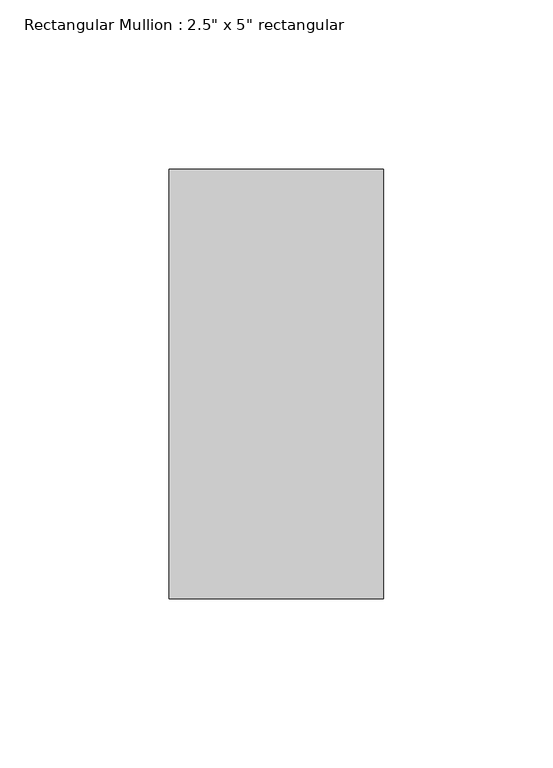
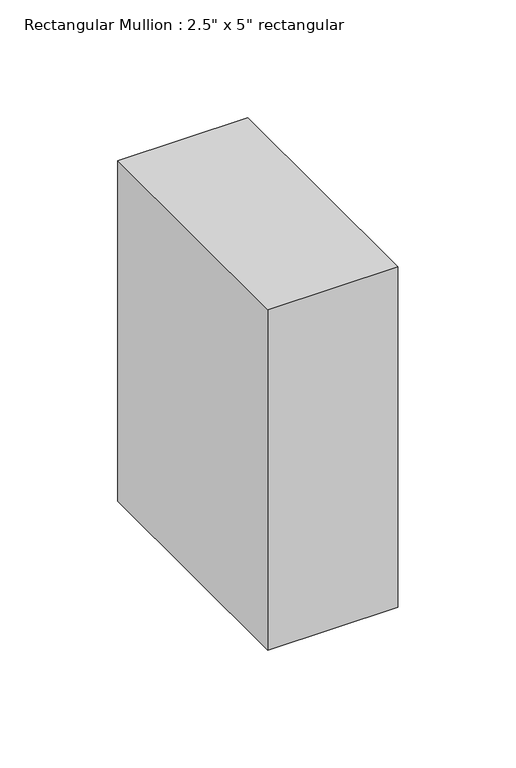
"""IFC4 building model written with IfcOpenShell, lengths in millimetres: member geometry."""

from ifc_helpers import new_model, si_unit, frame, origin, place, context, project, spatial, polyline, outline, extrude, source, transform, mapped, element, save


def member_8796500f(model_context):
    return source(origin(), model_context, "Body", "SweptSolid", [
        extrude(outline(polyline([(31.75, 63.5), (31.75, -63.5), (-31.75, -63.5), (-31.75, 63.5), (31.75, 63.5)])), frame((0.0, 0.0, -176.0376607), z_axis=(0.0, 0.0, 1.0), x_axis=(1.0, 0.0, 0.0)), (0.0, 0.0, 1.0), 176.0376607),
    ])


if __name__ == "__main__":
    model = new_model("IFC4")
    model_context = context("Model", 3, world=origin())
    ifc_project = project(units=[si_unit("LENGTHUNIT", "METRE", prefix="MILLI")], contexts=[model_context])
    site = spatial("IfcSite", under=ifc_project)
    building = spatial("IfcBuilding", under=site)
    placement = place(None, origin())
    member_shape = member_8796500f(model_context)
    element("IfcMember", 1, ObjectType="Rectangular Mullion : 2.5\" x 5\" rectangular", at=placement, inside=building, context=model_context, shape_type="MappedRepresentation", body=[
        mapped(member_shape, transform((0.0, 0.0, 0.0), x_axis=(1.0, 0.0, 0.0), y_axis=(0.0, 1.0, 0.0), z_axis=(0.0, 0.0, 1.0))),
    ])
    save(model, "model.ifc")
